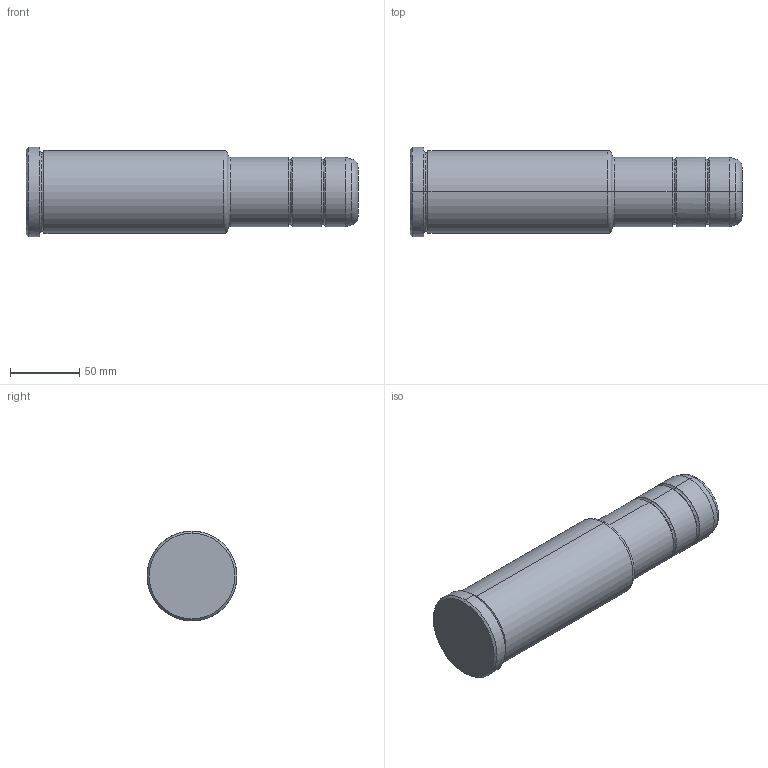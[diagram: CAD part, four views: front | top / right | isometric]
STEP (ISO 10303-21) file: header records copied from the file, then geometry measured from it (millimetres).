
FILE_DESCRIPTION(('CATIA V5 STEP Exchange'),'2;1');
FILE_NAME('C:\Users\Utente\Desktop\IO LAVORO\3D X SITO CF\X SITO\PLASTICA\351\351-50X146X240.stp','2021-11-03T19:27:43+00:00',('none'),('none'),'CATIA Version 5 Release 20 GA (IN-10)','CATIA V5 STEP AP203','none');
FILE_SCHEMA(('CONFIG_CONTROL_DESIGN'));
Length unit declared in the file: millimetre
Products named in the file (1): 351-50X146X240
Bounding box: 240 x 65 x 65 mm (x, y, z)
Volume: 597896.1 mm3; surface area: 48709.7 mm2
Topology: 1 solids, 1 shells, 35 faces, 98 edges, 66 vertices
Faces by surface type: torus 18, cylinder 10, cone 4, plane 3
Entity records: 1210 total; most frequent: CARTESIAN_POINT 276, ORIENTED_EDGE 196, DIRECTION 160, AXIS2_PLACEMENT_3D 112, EDGE_CURVE 98, CIRCLE 76, VERTEX_POINT 66, EDGE_LOOP 36
